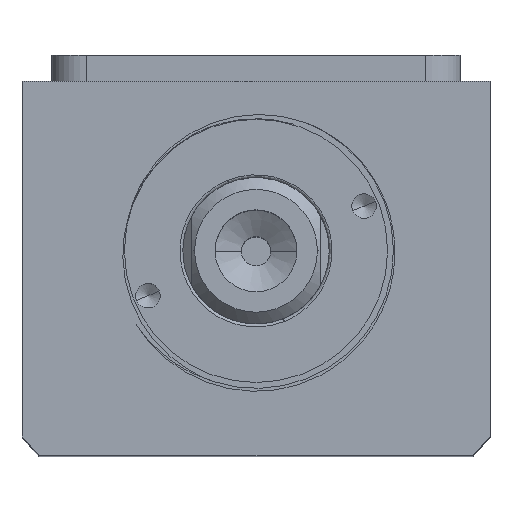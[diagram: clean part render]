
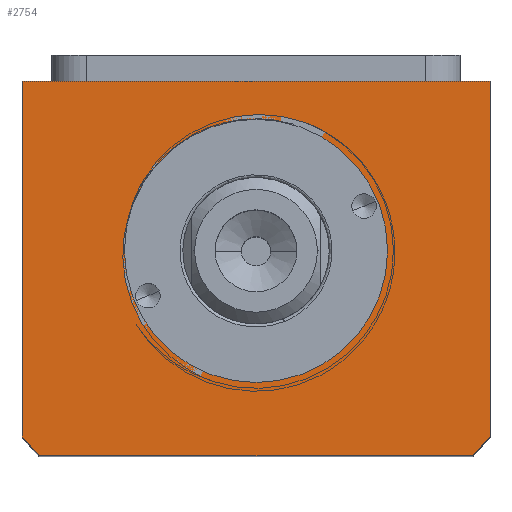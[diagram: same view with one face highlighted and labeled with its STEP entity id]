
A CAD part, top view. The second image highlights one B-rep face of the part: STEP entity #2754.
In plain terms, the highlighted planar face has unit normal (0, 0, 1).
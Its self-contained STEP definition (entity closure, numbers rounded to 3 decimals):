
#27 = DIRECTION ( 'NONE',  ( 0., 1., 0. ) ) ;
#37 = ORIENTED_EDGE ( 'NONE', *, *, #5628, .T. ) ;
#102 = LINE ( 'NONE', #2784, #9454 ) ;
#160 = EDGE_CURVE ( 'NONE', #9892, #7520, #9740, .T. ) ;
#175 = CARTESIAN_POINT ( 'NONE',  ( 0., 3., 115. ) ) ;
#195 = DIRECTION ( 'NONE',  ( 0., 0., 1. ) ) ;
#567 = CARTESIAN_POINT ( 'NONE',  ( 0., 3., 115. ) ) ;
#612 = CARTESIAN_POINT ( 'NONE',  ( -22.5, 3., 115. ) ) ;
#613 = VECTOR ( 'NONE', #1062, 1000. ) ;
#615 = VERTEX_POINT ( 'NONE', #612 ) ;
#816 = CARTESIAN_POINT ( 'NONE',  ( 40., -28.639, 115. ) ) ;
#850 = CARTESIAN_POINT ( 'NONE',  ( 40., 32., 115. ) ) ;
#891 = FACE_OUTER_BOUND ( 'NONE', #7128, .T. ) ;
#968 = DIRECTION ( 'NONE',  ( 1., 0., 0. ) ) ;
#1062 = DIRECTION ( 'NONE',  ( 0., -1., 0. ) ) ;
#1159 = EDGE_LOOP ( 'NONE', ( #8438, #8197 ) ) ;
#1354 = DIRECTION ( 'NONE',  ( 1., 0., 0. ) ) ;
#1424 = ORIENTED_EDGE ( 'NONE', *, *, #4803, .T. ) ;
#1716 = CARTESIAN_POINT ( 'NONE',  ( 22.5, 3., 115. ) ) ;
#1823 = EDGE_CURVE ( 'NONE', #7520, #2770, #9137, .T. ) ;
#1880 = AXIS2_PLACEMENT_3D ( 'NONE', #567, #6135, #1354 ) ;
#2237 = LINE ( 'NONE', #5837, #613 ) ;
#2634 = DIRECTION ( 'NONE',  ( -1., 0., 0. ) ) ;
#2740 = AXIS2_PLACEMENT_3D ( 'NONE', #175, #5746, #968 ) ;
#2754 = ADVANCED_FACE ( 'NONE', ( #9371, #891 ), #8794, .T. ) ;
#2770 = VERTEX_POINT ( 'NONE', #850 ) ;
#2784 = CARTESIAN_POINT ( 'NONE',  ( -40., -32., 115. ) ) ;
#3450 = CARTESIAN_POINT ( 'NONE',  ( -40., 32., 115. ) ) ;
#3802 = ORIENTED_EDGE ( 'NONE', *, *, #160, .T. ) ;
#3972 = VERTEX_POINT ( 'NONE', #1716 ) ;
#4021 = DIRECTION ( 'NONE',  ( 0., 0., 1. ) ) ;
#4240 = AXIS2_PLACEMENT_3D ( 'NONE', #6413, #8204, #4940 ) ;
#4242 = ORIENTED_EDGE ( 'NONE', *, *, #10291, .T. ) ;
#4260 = LINE ( 'NONE', #3450, #6385 ) ;
#4721 = VERTEX_POINT ( 'NONE', #9780 ) ;
#4803 = EDGE_CURVE ( 'NONE', #7248, #9892, #102, .T. ) ;
#4900 = VECTOR ( 'NONE', #27, 1000. ) ;
#4934 = CIRCLE ( 'NONE', #2740, 22.5 ) ;
#4940 = DIRECTION ( 'NONE',  ( 1., 0., 0. ) ) ;
#4980 = CARTESIAN_POINT ( 'NONE',  ( 0., 3., 115. ) ) ;
#5628 = EDGE_CURVE ( 'NONE', #10017, #4721, #2237, .T. ) ;
#5746 = DIRECTION ( 'NONE',  ( 0., 0., 1. ) ) ;
#5766 = DIRECTION ( 'NONE',  ( 1., 0., 0. ) ) ;
#5837 = CARTESIAN_POINT ( 'NONE',  ( -40., 32., 115. ) ) ;
#6135 = DIRECTION ( 'NONE',  ( 0., 0., 1. ) ) ;
#6385 = VECTOR ( 'NONE', #2634, 1000. ) ;
#6413 = CARTESIAN_POINT ( 'NONE',  ( 0., 3., 115. ) ) ;
#6541 = CIRCLE ( 'NONE', #1880, 22.5 ) ;
#6619 = AXIS2_PLACEMENT_3D ( 'NONE', #4980, #195, #5766 ) ;
#6873 = CARTESIAN_POINT ( 'NONE',  ( -37.094, -32., 115. ) ) ;
#7128 = EDGE_LOOP ( 'NONE', ( #37, #7728, #1424, #3802, #8883, #4242 ) ) ;
#7162 = CARTESIAN_POINT ( 'NONE',  ( -40., 32., 115. ) ) ;
#7248 = VERTEX_POINT ( 'NONE', #6873 ) ;
#7520 = VERTEX_POINT ( 'NONE', #816 ) ;
#7720 = EDGE_CURVE ( 'NONE', #3972, #615, #4934, .T. ) ;
#7728 = ORIENTED_EDGE ( 'NONE', *, *, #8584, .T. ) ;
#7989 = CARTESIAN_POINT ( 'NONE',  ( 0., 0., 115. ) ) ;
#8197 = ORIENTED_EDGE ( 'NONE', *, *, #9732, .F. ) ;
#8204 = DIRECTION ( 'NONE',  ( 0., 0., 1. ) ) ;
#8350 = DIRECTION ( 'NONE',  ( 1., 0., 0. ) ) ;
#8438 = ORIENTED_EDGE ( 'NONE', *, *, #7720, .F. ) ;
#8584 = EDGE_CURVE ( 'NONE', #4721, #7248, #9160, .T. ) ;
#8794 = PLANE ( 'NONE',  #10158 ) ;
#8809 = CARTESIAN_POINT ( 'NONE',  ( 40., 32., 115. ) ) ;
#8883 = ORIENTED_EDGE ( 'NONE', *, *, #1823, .T. ) ;
#9137 = LINE ( 'NONE', #8809, #4900 ) ;
#9160 = CIRCLE ( 'NONE', #6619, 51. ) ;
#9371 = FACE_BOUND ( 'NONE', #1159, .T. ) ;
#9454 = VECTOR ( 'NONE', #8350, 1000. ) ;
#9577 = DIRECTION ( 'NONE',  ( 1., 0., 0. ) ) ;
#9732 = EDGE_CURVE ( 'NONE', #615, #3972, #6541, .T. ) ;
#9740 = CIRCLE ( 'NONE', #4240, 51. ) ;
#9780 = CARTESIAN_POINT ( 'NONE',  ( -40., -28.639, 115. ) ) ;
#9892 = VERTEX_POINT ( 'NONE', #10227 ) ;
#10017 = VERTEX_POINT ( 'NONE', #7162 ) ;
#10158 = AXIS2_PLACEMENT_3D ( 'NONE', #7989, #4021, #9577 ) ;
#10227 = CARTESIAN_POINT ( 'NONE',  ( 37.094, -32., 115. ) ) ;
#10291 = EDGE_CURVE ( 'NONE', #2770, #10017, #4260, .T. ) ;
